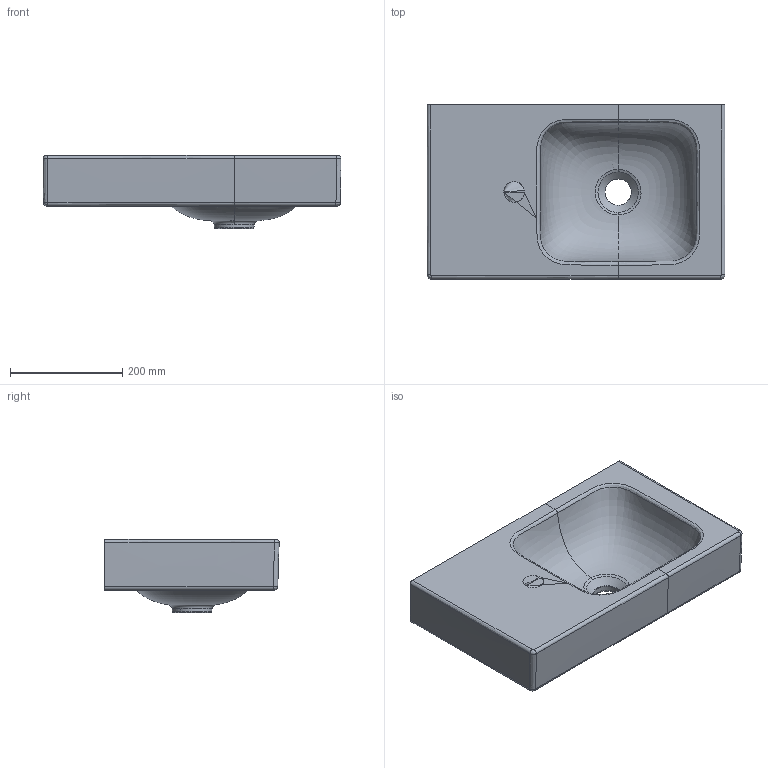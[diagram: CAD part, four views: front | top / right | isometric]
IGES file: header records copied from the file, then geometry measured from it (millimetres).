
Global section: file name: 124153000; native system: Autodesk Inventor 2018; preprocessor: unknown; author: JANAN; date: 20200529.124156; units: millimetre
Bounding box: 530 x 309.84 x 130 mm (x, y, z)
Volume: 7833889.7 mm3; surface area: 572897.9 mm2
Topology: 1 solids, 1 shells, 309 faces, 740 edges, 432 vertices
Faces by surface type: bspline 309
